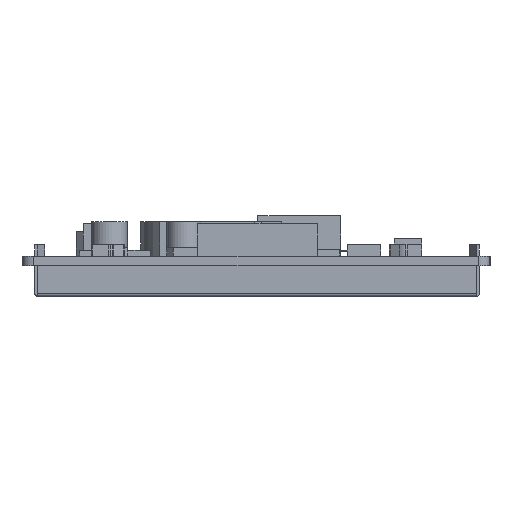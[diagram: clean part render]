
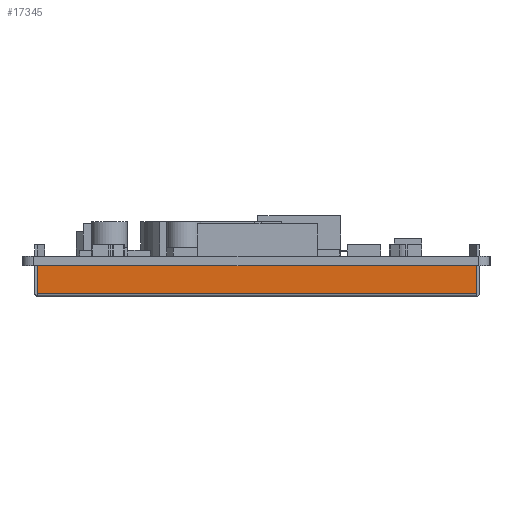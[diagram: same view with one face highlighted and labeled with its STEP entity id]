
A CAD part, left-side view. The second image highlights one B-rep face of the part: STEP entity #17345.
In plain terms, the highlighted planar face has unit normal (-1, 0, 0).
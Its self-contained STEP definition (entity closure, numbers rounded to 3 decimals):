
#17345=ADVANCED_FACE('',(#21273),#19296,.F.);
#19296=PLANE('',#48359);
#21273=FACE_OUTER_BOUND('',#23308,.T.);
#23308=EDGE_LOOP('',(#31142,#31143,#31144,#31145));
#31142=ORIENTED_EDGE('',*,*,#38190,.F.);
#31143=ORIENTED_EDGE('',*,*,#38191,.T.);
#31144=ORIENTED_EDGE('',*,*,#38192,.T.);
#31145=ORIENTED_EDGE('',*,*,#38193,.T.);
#34178=VERTEX_POINT('',#65163);
#34179=VERTEX_POINT('',#65164);
#34180=VERTEX_POINT('',#65166);
#34181=VERTEX_POINT('',#65168);
#38190=EDGE_CURVE('',#34178,#34179,#42185,.T.);
#38191=EDGE_CURVE('',#34178,#34180,#42186,.T.);
#38192=EDGE_CURVE('',#34180,#34181,#42187,.T.);
#38193=EDGE_CURVE('',#34181,#34179,#42188,.T.);
#42185=LINE('',#65162,#46171);
#42186=LINE('',#65165,#46172);
#42187=LINE('',#65167,#46173);
#42188=LINE('',#65169,#46174);
#46171=VECTOR('',#56194,1.);
#46172=VECTOR('',#56195,1.);
#46173=VECTOR('',#56196,1.);
#46174=VECTOR('',#56197,1.);
#48359=AXIS2_PLACEMENT_3D('',#65170,#56198,#56199);
#56194=DIRECTION('',(0.,0.,1.));
#56195=DIRECTION('',(0.,-1.,0.));
#56196=DIRECTION('',(0.,0.,1.));
#56197=DIRECTION('',(0.,1.,0.));
#56198=DIRECTION('',(1.,0.,0.));
#56199=DIRECTION('',(0.,1.,0.));
#65162=CARTESIAN_POINT('',(59.66,54.82,-6.9));
#65163=CARTESIAN_POINT('',(59.66,54.82,-6.5));
#65164=CARTESIAN_POINT('',(59.66,54.82,-1.6));
#65165=CARTESIAN_POINT('',(59.66,-21.2,-6.5));
#65166=CARTESIAN_POINT('',(59.66,-21.2,-6.5));
#65167=CARTESIAN_POINT('',(59.66,-21.2,-6.9));
#65168=CARTESIAN_POINT('',(59.66,-21.2,-1.6));
#65169=CARTESIAN_POINT('',(59.66,-21.2,-1.6));
#65170=CARTESIAN_POINT('',(59.66,-21.2,-6.9));
